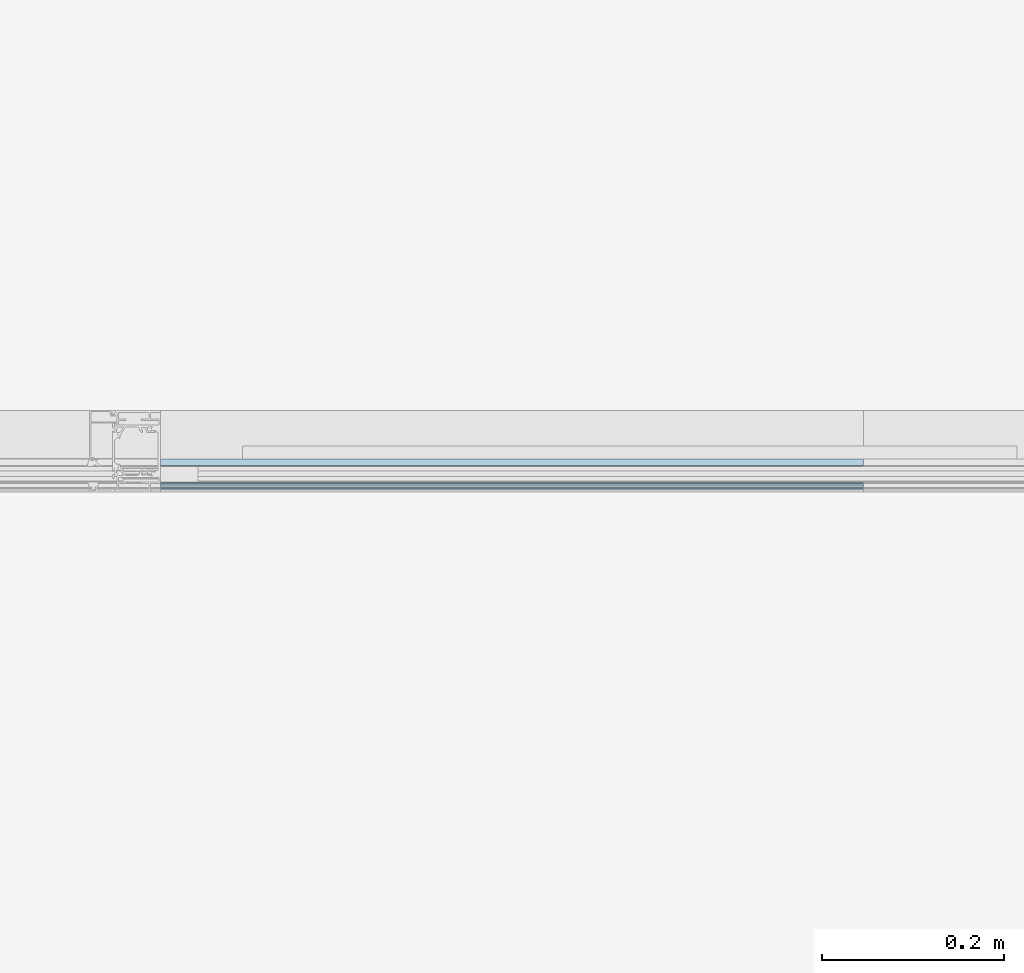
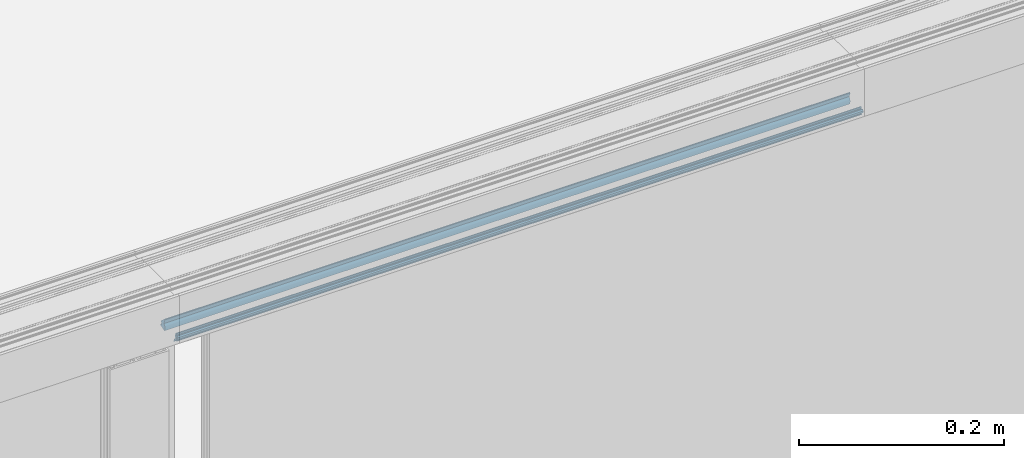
# One storey, part 33 of 69: 1 building element part, 2 elements without a shape of their own.
"""IFC2X3 building model written with IfcOpenShell, lengths in millimetres."""

from ifc_helpers import new_model, entity, si_unit, converted_unit, derived_unit, money_unit, direction, frame, origin_with_axes, place, context, subcontext, project, spatial, faceted_brep, material, type_object, element, aggregate, save


model = new_model("IFC2X3")

# Units and contexts
model_context = context("Model", 3, precision=0.01, world=origin_with_axes(), true_north=direction((0.0, 1.0)))
body_context = subcontext(model_context, "Body", "Model", "MODEL_VIEW")
ifc_project = project(units=[si_unit("LENGTHUNIT", "METRE", prefix="MILLI"), si_unit("AREAUNIT", "SQUARE_METRE"), si_unit("VOLUMEUNIT", "CUBIC_METRE"), converted_unit("PLANEANGLEUNIT", "DEGREE", entity("IfcPlaneAngleMeasure", 0.0174532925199), si_unit("PLANEANGLEUNIT", "RADIAN"), dimensions=[0, 0, 0, 0, 0, 0, 0]), si_unit("SOLIDANGLEUNIT", "STERADIAN"), money_unit("EUR"), converted_unit("TIMEUNIT", "Year", entity("IfcTimeMeasure", 31556926.0), si_unit("TIMEUNIT", "SECOND"), dimensions=[0, 0, 1, 0, 0, 0, 0]), si_unit("MASSUNIT", "GRAM", prefix="KILO"), si_unit("THERMODYNAMICTEMPERATUREUNIT", "DEGREE_CELSIUS"), si_unit("LUMINOUSINTENSITYUNIT", "LUMEN"), si_unit("ENERGYUNIT", "JOULE", prefix="MEGA"), derived_unit("THERMALCONDUCTANCEUNIT", [(si_unit("POWERUNIT", "WATT"), 1), (si_unit("LENGTHUNIT", "METRE"), -1), (si_unit("THERMODYNAMICTEMPERATUREUNIT", "KELVIN"), -1)]), derived_unit("SPECIFICHEATCAPACITYUNIT", [(si_unit("ENERGYUNIT", "JOULE"), 1), (si_unit("MASSUNIT", "GRAM", prefix="KILO"), -1), (si_unit("THERMODYNAMICTEMPERATUREUNIT", "KELVIN"), -1)]), derived_unit("MASSDENSITYUNIT", [(si_unit("MASSUNIT", "GRAM", prefix="KILO"), 1), (si_unit("VOLUMEUNIT", "CUBIC_METRE"), -1)])], contexts=[model_context])

# Site, building, storey
site_placement = place(None, origin_with_axes())
site = spatial("IfcSite", under=ifc_project, at=site_placement, Name="Puškini 31, Narva", CompositionType="ELEMENT")
building_placement = place(site_placement, origin_with_axes())
building = spatial("IfcBuilding", under=site, at=building_placement, Name="Narva Riigigümnaasium", CompositionType="ELEMENT")
storey_placement = place(building_placement, origin_with_axes())
storey = spatial("IfcBuildingStorey", under=building, at=storey_placement, Name="1.korrus 0.00", CompositionType="ELEMENT", Elevation=0.0)

# Curtain wall, member, building element part
curtain_wall_type = type_object("IfcCurtainWallType", Name="Curtain Wall Type", PredefinedType="NOTDEFINED")
curtain_wall_placement = place(storey_placement, frame((18229.9603698, 152620.000001, -0.397158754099), z_axis=(0.0, 0.0, 1.0), x_axis=(1.0, 0.0, 0.0)))
curtain_wall = element("IfcCurtainWall", 1, at=curtain_wall_placement, inside=storey, type_object=curtain_wall_type, Name="G-KLF-01-1")
member_type = type_object("IfcMemberType", Name="61 x 45", PredefinedType="MULLION")
member_placement = place(curtain_wall_placement, frame((-167.593132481, 0.0, 3760.3971197), z_axis=(-1.0, 0.0, 0.0), x_axis=(0.0, 0.0, 1.0)))
member = element("IfcMember", 2, at=member_placement, type_object=member_type, Name="G-SKLF-11-raam", ObjectType="MULLION")
aggregate(curtain_wall, [member])
ifc_material = material(Name="Membraan - Veekindel")
building_element_part_placement = place(member_placement, origin_with_axes())
building_element_part = element("IfcBuildingElementPart", 3, at=building_element_part_placement, material=ifc_material, Name="Membraan - Veekindel", context=body_context, shape_type="Brep", body=[
    faceted_brep([(-61.0413385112, -34.3890442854, 0.0), (-59.5800222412, -34.73794757, 0.0), (-59.5800222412, -34.73794757, 773.537001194), (-61.0413385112, -34.3890442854, 773.537001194), (-61.1536677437, -34.1934467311, 0.0), (-61.1423164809, -33.9681748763, 0.0), (-61.0108941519, -33.784859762, 0.0), (-60.7381535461, -33.9217644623, 0.0), (-59.8409257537, -34.1343131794, 0.0), (-58.2346494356, -34.5489145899, 0.0), (-56.9567944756, -35.6067920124, 0.0), (-56.2495873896, -37.1074172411, 0.0), (-56.1542959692, -37.3107917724, 0.0), (-55.9795989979, -37.4519392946, 0.0), (-55.7607444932, -37.5023809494, 0.0), (-55.1093263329, -37.5023809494, 0.0), (-54.8593263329, -37.4353936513, 0.0), (-54.676313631, -37.2523809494, 0.0), (-54.2721684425, -36.5523809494, 0.0), (-54.0891557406, -36.3693682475, 0.0), (-53.8391557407, -36.3023809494, 0.0), (-51.602145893, -36.3023809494, 0.0), (-51.352145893, -36.3693682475, 0.0), (-51.1691331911, -36.5523809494, 0.0), (-50.7649880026, -37.2523809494, 0.0), (-50.5819753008, -37.4353936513, 0.0), (-50.3319753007, -37.5023809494, 0.0), (-49.2206527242, -37.5023809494, 0.0), (-48.9706527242, -37.5693682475, 0.0), (-48.7876400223, -37.7523809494, 0.0), (-48.7206527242, -38.0023809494, 0.0), (-48.7206527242, -39.1999494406, 0.0), (-50.10004, -39.1999494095, 0.0), (-50.1670287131, -38.9499497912, 0.0), (-50.3500424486, -38.7669381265, 0.0), (-50.6000428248, -38.699952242, 0.0), (-50.8500424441, -38.7669409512, 0.0), (-51.0330541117, -38.9499546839, 0.0), (-51.10004, -39.1999550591, 0.0), (-51.10004, -40.4999366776, 0.0), (-51.0598476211, -40.6499366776, 0.0), (-50.95004, -40.7597442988, 0.0), (-50.80004, -40.7999366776, 0.0), (-50.7000457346, -40.7999366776, 0.0), (-50.5334025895, -40.8504763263, 0.0), (-50.4229059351, -40.9850671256, 0.0), (-50.4057850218, -41.1583618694, 0.0), (-50.4878083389, -41.3119729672, 0.0), (-51.5281601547, -42.3533311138, 0.0), (-51.6904310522, -42.4618421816, 0.0), (-51.8818844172, -42.4999486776, 0.0), (-53.517932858, -42.4999486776, 0.0), (-53.7093558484, -42.4618547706, 0.0), (-53.8716106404, -42.3533776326, 0.0), (-54.9122350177, -41.3120206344, 0.0), (-54.9942836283, -41.1584047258, 0.0), (-54.9771753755, -40.9850924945, 0.0), (-54.866675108, -40.850483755, 0.0), (-54.7000173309, -40.7999366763, 0.0), (-54.6000210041, -40.7999366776, 0.0), (-54.4500210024, -40.7597443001, 0.0), (-54.3402133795, -40.6499366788, 0.0), (-54.300021, -40.4999366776, 0.0), (-54.300021, -39.1999606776, 0.0), (-54.3670082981, -38.9499606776, 0.0), (-54.5500210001, -38.7669479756, 0.0), (-54.8000210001, -38.6999606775, 0.0), (-55.0500210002, -38.7669479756, 0.0), (-55.2330337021, -38.9499606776, 0.0), (-55.3000210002, -39.1999606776, 0.0), (-57.3000022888, -39.1999494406, 0.0), (-57.3000022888, -39.9999846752, 0.0), (-57.5000161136, -39.9463912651, 0.0), (-57.6464370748, -39.7999717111, 0.0), (-57.7000324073, -39.5999584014, 0.0), (-57.9693613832, -36.5265882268, 0.0), (-58.4755028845, -35.3628499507, 0.0), (-53.5000340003, -40.7999553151, 0.0), (-53.4330491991, -41.0499459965, 0.0), (-53.2500433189, -41.2329518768, 0.0), (-53.0000526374, -41.299936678, 0.0), (-52.4000083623, -41.299936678, 0.0), (-52.150017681, -41.2329518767, 0.0), (-51.9670118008, -41.0499459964, 0.0), (-51.9000269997, -40.799955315, 0.0), (-51.9000269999, -39.6999268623, 0.0), (-51.9670129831, -39.4499317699, 0.0), (-52.1500220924, -39.2669226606, 0.0), (-52.4000171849, -39.1999366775, 0.0), (-53.0000438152, -39.1999366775, 0.0), (-53.2500389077, -39.2669226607, 0.0), (-53.433048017, -39.44993177, 0.0), (-58.4755028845, -35.3628499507, 773.537001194), (-57.9693613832, -36.5265882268, 773.537001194), (-57.7000324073, -39.5999584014, 773.537001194), (-57.6464370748, -39.7999717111, 773.537001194), (-57.5000161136, -39.9463912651, 773.537001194), (-57.3000022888, -39.9999846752, 773.537001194), (-57.3000022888, -39.1999494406, 773.537001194), (-55.3000210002, -39.1999606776, 773.537001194), (-55.2330337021, -38.9499606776, 773.537001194), (-55.0500210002, -38.7669479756, 773.537001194), (-54.8000210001, -38.6999606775, 773.537001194), (-54.5500210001, -38.7669479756, 773.537001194), (-54.3670082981, -38.9499606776, 773.537001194), (-54.300021, -39.1999606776, 773.537001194), (-54.300021, -40.4999366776, 773.537001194), (-54.3402133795, -40.6499366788, 773.537001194), (-54.4500210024, -40.7597443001, 773.537001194), (-54.6000210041, -40.7999366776, 773.537001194), (-54.7000173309, -40.7999366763, 773.537001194), (-54.866675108, -40.850483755, 773.537001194), (-54.9771753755, -40.9850924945, 773.537001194), (-54.9942836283, -41.1584047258, 773.537001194), (-54.9122350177, -41.3120206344, 773.537001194), (-53.8716106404, -42.3533776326, 773.537001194), (-53.7093558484, -42.4618547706, 773.537001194), (-53.517932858, -42.4999486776, 773.537001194), (-51.8818844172, -42.4999486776, 773.537001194), (-51.6904310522, -42.4618421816, 773.537001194), (-51.5281601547, -42.3533311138, 773.537001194), (-50.4878083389, -41.3119729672, 773.537001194), (-50.4057850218, -41.1583618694, 773.537001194), (-50.4229059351, -40.9850671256, 773.537001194), (-50.5334025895, -40.8504763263, 773.537001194), (-50.7000457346, -40.7999366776, 773.537001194), (-50.80004, -40.7999366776, 773.537001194), (-50.95004, -40.7597442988, 773.537001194), (-51.0598476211, -40.6499366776, 773.537001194), (-51.10004, -40.4999366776, 773.537001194), (-51.10004, -39.1999550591, 773.537001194), (-51.0330541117, -38.9499546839, 773.537001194), (-50.8500424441, -38.7669409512, 773.537001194), (-50.6000428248, -38.699952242, 773.537001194), (-50.3500424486, -38.7669381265, 773.537001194), (-50.1670287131, -38.9499497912, 773.537001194), (-50.10004, -39.1999494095, 773.537001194), (-48.7206527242, -39.1999494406, 773.537001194), (-48.7206527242, -38.0023809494, 773.537001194), (-48.7876400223, -37.7523809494, 773.537001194), (-48.9706527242, -37.5693682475, 773.537001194), (-49.2206527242, -37.5023809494, 773.537001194), (-50.3319753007, -37.5023809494, 773.537001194), (-50.5819753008, -37.4353936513, 773.537001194), (-50.7649880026, -37.2523809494, 773.537001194), (-51.1691331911, -36.5523809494, 773.537001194), (-51.352145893, -36.3693682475, 773.537001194), (-51.602145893, -36.3023809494, 773.537001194), (-53.8391557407, -36.3023809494, 773.537001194), (-54.0891557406, -36.3693682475, 773.537001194), (-54.2721684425, -36.5523809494, 773.537001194), (-54.676313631, -37.2523809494, 773.537001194), (-54.8593263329, -37.4353936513, 773.537001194), (-55.1093263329, -37.5023809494, 773.537001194), (-55.7607444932, -37.5023809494, 773.537001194), (-55.9795989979, -37.4519392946, 773.537001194), (-56.1542959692, -37.3107917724, 773.537001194), (-56.2495873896, -37.1074172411, 773.537001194), (-56.9567944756, -35.6067920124, 773.537001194), (-58.2346494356, -34.5489145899, 773.537001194), (-59.8409257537, -34.1343131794, 773.537001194), (-60.7381535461, -33.9217644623, 773.537001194), (-61.0108941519, -33.784859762, 773.537001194), (-61.1423164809, -33.9681748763, 773.537001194), (-61.1536677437, -34.1934467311, 773.537001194), (-53.5000340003, -40.7999553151, 773.537001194), (-53.433048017, -39.44993177, 773.537001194), (-53.2500389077, -39.2669226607, 773.537001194), (-53.0000438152, -39.1999366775, 773.537001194), (-52.4000171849, -39.1999366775, 773.537001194), (-52.1500220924, -39.2669226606, 773.537001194), (-51.9670129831, -39.4499317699, 773.537001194), (-51.9000269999, -39.6999268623, 773.537001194), (-51.9000269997, -40.799955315, 773.537001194), (-51.9670118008, -41.0499459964, 773.537001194), (-52.150017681, -41.2329518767, 773.537001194), (-52.4000083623, -41.299936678, 773.537001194), (-53.0000526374, -41.299936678, 773.537001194), (-53.2500433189, -41.2329518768, 773.537001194), (-53.4330491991, -41.0499459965, 773.537001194)], [[[0, 1, 2, 3]], [[0, 4, 5, 6, 7, 8, 9, 10, 11, 12, 13, 14, 15, 16, 17, 18, 19, 20, 21, 22, 23, 24, 25, 26, 27, 28, 29, 30, 31, 32, 33, 34, 35, 36, 37, 38, 39, 40, 41, 42, 43, 44, 45, 46, 47, 48, 49, 50, 51, 52, 53, 54, 55, 56, 57, 58, 59, 60, 61, 62, 63, 64, 65, 66, 67, 68, 69, 70, 71, 72, 73, 74, 75, 76, 1], [77, 78, 79, 80, 81, 82, 83, 84, 85, 86, 87, 88, 89, 90, 91]], [[1, 76, 92, 2]], [[3, 2, 92, 93, 94, 95, 96, 97, 98, 99, 100, 101, 102, 103, 104, 105, 106, 107, 108, 109, 110, 111, 112, 113, 114, 115, 116, 117, 118, 119, 120, 121, 122, 123, 124, 125, 126, 127, 128, 129, 130, 131, 132, 133, 134, 135, 136, 137, 138, 139, 140, 141, 142, 143, 144, 145, 146, 147, 148, 149, 150, 151, 152, 153, 154, 155, 156, 157, 158, 159, 160, 161, 162, 163, 164], [165, 166, 167, 168, 169, 170, 171, 172, 173, 174, 175, 176, 177, 178, 179]], [[4, 0, 3, 164]], [[5, 4, 164, 163]], [[6, 5, 163, 162]], [[7, 6, 162, 161]], [[8, 7, 161, 160]], [[9, 8, 160, 159]], [[10, 9, 159, 158]], [[11, 10, 158, 157]], [[12, 11, 157, 156]], [[13, 12, 156, 155]], [[14, 13, 155, 154]], [[15, 14, 154, 153]], [[16, 15, 153, 152]], [[17, 16, 152, 151]], [[18, 17, 151, 150]], [[19, 18, 150, 149]], [[20, 19, 149, 148]], [[21, 20, 148, 147]], [[22, 21, 147, 146]], [[23, 22, 146, 145]], [[24, 23, 145, 144]], [[25, 24, 144, 143]], [[26, 25, 143, 142]], [[27, 26, 142, 141]], [[28, 27, 141, 140]], [[29, 28, 140, 139]], [[30, 29, 139, 138]], [[31, 30, 138, 137]], [[32, 31, 137, 136]], [[33, 32, 136, 135]], [[34, 33, 135, 134]], [[35, 34, 134, 133]], [[36, 35, 133, 132]], [[37, 36, 132, 131]], [[38, 37, 131, 130]], [[39, 38, 130, 129]], [[40, 39, 129, 128]], [[41, 40, 128, 127]], [[42, 41, 127, 126]], [[43, 42, 126, 125]], [[44, 43, 125, 124]], [[45, 44, 124, 123]], [[46, 45, 123, 122]], [[47, 46, 122, 121]], [[48, 47, 121, 120]], [[49, 48, 120, 119]], [[50, 49, 119, 118]], [[51, 50, 118, 117]], [[52, 51, 117, 116]], [[53, 52, 116, 115]], [[54, 53, 115, 114]], [[55, 54, 114, 113]], [[56, 55, 113, 112]], [[57, 56, 112, 111]], [[58, 57, 111, 110]], [[59, 58, 110, 109]], [[60, 59, 109, 108]], [[61, 60, 108, 107]], [[62, 61, 107, 106]], [[63, 62, 106, 105]], [[64, 63, 105, 104]], [[65, 64, 104, 103]], [[66, 65, 103, 102]], [[67, 66, 102, 101]], [[68, 67, 101, 100]], [[69, 68, 100, 99]], [[70, 69, 99, 98]], [[71, 70, 98, 97]], [[72, 71, 97, 96]], [[73, 72, 96, 95]], [[74, 73, 95, 94]], [[75, 74, 94, 93]], [[76, 75, 93, 92]], [[78, 77, 165, 179]], [[79, 78, 179, 178]], [[80, 79, 178, 177]], [[81, 80, 177, 176]], [[82, 81, 176, 175]], [[83, 82, 175, 174]], [[84, 83, 174, 173]], [[85, 84, 173, 172]], [[86, 85, 172, 171]], [[87, 86, 171, 170]], [[88, 87, 170, 169]], [[89, 88, 169, 168]], [[90, 89, 168, 167]], [[91, 90, 167, 166]], [[77, 91, 166, 165]]]),
    faceted_brep([(-59.0307115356, -16.554149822, 0.0), (-55.9926715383, -16.8063498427, 0.0), (-55.9926715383, -16.8063498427, 773.537001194), (-59.0307115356, -16.554149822, 773.537001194), (-59.3884652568, -16.1092618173, 0.0), (-59.5001582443, -15.5494067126, 0.0), (-59.3405112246, -15.0012955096, 0.0), (-57.5418652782, -10.0035930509, 0.0), (-57.2632233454, -8.46932121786, 0.0), (-57.1824204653, -8.36745448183, 0.0), (-57.0661058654, -8.3093438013, 0.0), (-56.9361285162, -8.30590490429, 0.0), (-55.5361285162, -8.57803733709, 0.0), (-55.4168250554, -8.6299735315, 0.0), (-55.3307332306, -8.7275382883, 0.0), (-55.2940485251, -8.85237785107, 0.0), (-55.4099827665, -9.81272116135, 0.0), (-55.3838261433, -9.97808311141, 0.0), (-55.2731258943, -10.1036784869, 0.0), (-55.1123574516, -10.1503930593, 0.0), (-53.0580290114, -10.1503930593, 0.0), (-52.8859560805, -10.0961386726, 0.0), (-52.7761212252, -9.95299910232, 0.0), (-52.3556584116, -8.79778701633, 0.0), (-52.2574645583, -8.66326410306, 0.0), (-52.1026310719, -8.60190419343, 0.0), (-51.938943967, -8.6326446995, 0.0), (-51.8169217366, -8.74599822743, 0.0), (-45.6142070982, -15.4144760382, 0.0), (-45.3418968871, -15.7688623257, 0.0), (-45.3195226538, -16.2152275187, 0.0), (-45.3889077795, -16.3899097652, 0.0), (-45.6241929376, -16.6482027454, 0.0), (-45.950966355, -16.7718696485, 0.0), (-46.298307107, -16.7340705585, 0.0), (-50.5536994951, -15.2121179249, 0.0), (-50.8437237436, -15.0307134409, 0.0), (-51.0558924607, -14.9074036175, 0.0), (-51.3011765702, -14.8998814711, 0.0), (-51.5205025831, -15.0099586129, 0.0), (-53.1225200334, -16.3483062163, 0.0), (-53.7899070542, -16.6230039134, 0.0), (-53.7899070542, -16.6230039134, 773.537001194), (-53.1225200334, -16.3483062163, 773.537001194), (-51.5205025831, -15.0099586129, 773.537001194), (-51.3011765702, -14.8998814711, 773.537001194), (-51.0558924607, -14.9074036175, 773.537001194), (-50.8437237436, -15.0307134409, 773.537001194), (-50.5536994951, -15.2121179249, 773.537001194), (-46.298307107, -16.7340705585, 773.537001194), (-45.950966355, -16.7718696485, 773.537001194), (-45.6241929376, -16.6482027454, 773.537001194), (-45.3889077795, -16.3899097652, 773.537001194), (-45.3195226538, -16.2152275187, 773.537001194), (-45.3418968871, -15.7688623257, 773.537001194), (-45.6142070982, -15.4144760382, 773.537001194), (-51.8169217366, -8.74599822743, 773.537001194), (-51.938943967, -8.6326446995, 773.537001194), (-52.1026310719, -8.60190419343, 773.537001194), (-52.2574645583, -8.66326410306, 773.537001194), (-52.3556584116, -8.79778701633, 773.537001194), (-52.7761212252, -9.95299910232, 773.537001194), (-52.8859560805, -10.0961386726, 773.537001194), (-53.0580290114, -10.1503930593, 773.537001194), (-55.1123574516, -10.1503930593, 773.537001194), (-55.2731258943, -10.1036784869, 773.537001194), (-55.3838261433, -9.97808311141, 773.537001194), (-55.4099827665, -9.81272116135, 773.537001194), (-55.2940485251, -8.85237785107, 773.537001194), (-55.3307332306, -8.7275382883, 773.537001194), (-55.4168250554, -8.6299735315, 773.537001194), (-55.5361285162, -8.57803733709, 773.537001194), (-56.9361285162, -8.30590490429, 773.537001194), (-57.0661058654, -8.3093438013, 773.537001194), (-57.1824204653, -8.36745448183, 773.537001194), (-57.2632233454, -8.46932121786, 773.537001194), (-57.5418652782, -10.0035930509, 773.537001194), (-59.3405112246, -15.0012955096, 773.537001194), (-59.5001582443, -15.5494067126, 773.537001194), (-59.3884652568, -16.1092618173, 773.537001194)], [[[0, 1, 2, 3]], [[0, 4, 5, 6, 7, 8, 9, 10, 11, 12, 13, 14, 15, 16, 17, 18, 19, 20, 21, 22, 23, 24, 25, 26, 27, 28, 29, 30, 31, 32, 33, 34, 35, 36, 37, 38, 39, 40, 41, 1]], [[1, 41, 42, 2]], [[3, 2, 42, 43, 44, 45, 46, 47, 48, 49, 50, 51, 52, 53, 54, 55, 56, 57, 58, 59, 60, 61, 62, 63, 64, 65, 66, 67, 68, 69, 70, 71, 72, 73, 74, 75, 76, 77, 78, 79]], [[4, 0, 3, 79]], [[5, 4, 79, 78]], [[6, 5, 78, 77]], [[7, 6, 77, 76]], [[8, 7, 76, 75]], [[9, 8, 75, 74]], [[10, 9, 74, 73]], [[11, 10, 73, 72]], [[12, 11, 72, 71]], [[13, 12, 71, 70]], [[14, 13, 70, 69]], [[15, 14, 69, 68]], [[16, 15, 68, 67]], [[17, 16, 67, 66]], [[18, 17, 66, 65]], [[19, 18, 65, 64]], [[20, 19, 64, 63]], [[21, 20, 63, 62]], [[22, 21, 62, 61]], [[23, 22, 61, 60]], [[24, 23, 60, 59]], [[25, 24, 59, 58]], [[26, 25, 58, 57]], [[27, 26, 57, 56]], [[28, 27, 56, 55]], [[29, 28, 55, 54]], [[30, 29, 54, 53]], [[31, 30, 53, 52]], [[32, 31, 52, 51]], [[33, 32, 51, 50]], [[34, 33, 50, 49]], [[35, 34, 49, 48]], [[36, 35, 48, 47]], [[37, 36, 47, 46]], [[38, 37, 46, 45]], [[39, 38, 45, 44]], [[40, 39, 44, 43]], [[41, 40, 43, 42]]]),
])
aggregate(member, [building_element_part])

save(model, "model.ifc")
